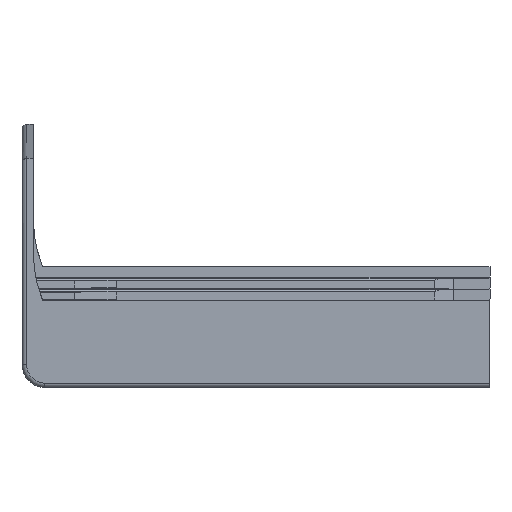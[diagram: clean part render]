
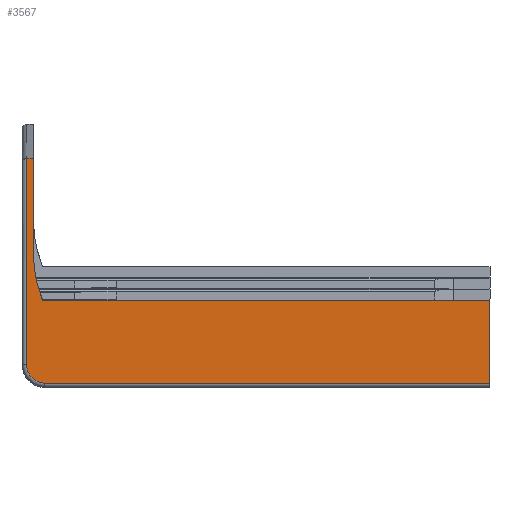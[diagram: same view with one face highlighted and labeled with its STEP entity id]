
A CAD part, left-side view. The second image highlights one B-rep face of the part: STEP entity #3567.
In plain terms, the highlighted planar face has unit normal (-0.999, 0, -0.035) as drawn and (-1, 0, 0) by its records, which use the part's own axes.
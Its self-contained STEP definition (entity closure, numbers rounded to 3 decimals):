
#364 = VERTEX_POINT ( 'NONE', #5885 ) ;
#559 = VERTEX_POINT ( 'NONE', #3326 ) ;
#630 = CARTESIAN_POINT ( 'NONE',  ( -106., 1., 51. ) ) ;
#631 = DIRECTION ( 'NONE',  ( 0., -1., 0. ) ) ;
#1104 = CARTESIAN_POINT ( 'NONE',  ( -106., 1., 51. ) ) ;
#1175 = CIRCLE ( 'NONE', #3368, 4. ) ;
#1203 = ORIENTED_EDGE ( 'NONE', *, *, #5677, .T. ) ;
#1373 = AXIS2_PLACEMENT_3D ( 'NONE', #4789, #7784, #3820 ) ;
#1487 = DIRECTION ( 'NONE',  ( 0., -0.38, -0.925 ) ) ;
#1866 = CIRCLE ( 'NONE', #1373, 0.5 ) ;
#2107 = LINE ( 'NONE', #630, #2138 ) ;
#2138 = VECTOR ( 'NONE', #3476, 1000. ) ;
#2195 = CARTESIAN_POINT ( 'NONE',  ( -106., 50., -50. ) ) ;
#2201 = ORIENTED_EDGE ( 'NONE', *, *, #2982, .T. ) ;
#2260 = DIRECTION ( 'NONE',  ( 1., 0., 0. ) ) ;
#2268 = EDGE_LOOP ( 'NONE', ( #2201, #1203, #6806, #7379, #8407, #2696, #9436, #4502, #6452 ) ) ;
#2489 = LINE ( 'NONE', #1104, #4601 ) ;
#2696 = ORIENTED_EDGE ( 'NONE', *, *, #2821, .F. ) ;
#2821 = EDGE_CURVE ( 'NONE', #4251, #7616, #8908, .T. ) ;
#2982 = EDGE_CURVE ( 'NONE', #4582, #559, #2489, .T. ) ;
#3010 = FACE_OUTER_BOUND ( 'NONE', #2268, .T. ) ;
#3116 = CARTESIAN_POINT ( 'NONE',  ( -106., 5., -50. ) ) ;
#3285 = LINE ( 'NONE', #7781, #6676 ) ;
#3326 = CARTESIAN_POINT ( 'NONE',  ( -106., 19., 51. ) ) ;
#3328 = VERTEX_POINT ( 'NONE', #3116 ) ;
#3368 = AXIS2_PLACEMENT_3D ( 'NONE', #9651, #2260, #631 ) ;
#3476 = DIRECTION ( 'NONE',  ( 0., 0., -1. ) ) ;
#3547 = EDGE_CURVE ( 'NONE', #6000, #5737, #3983, .T. ) ;
#3563 = CARTESIAN_POINT ( 'NONE',  ( -106., 1., 51. ) ) ;
#3567 = ADVANCED_FACE ( 'NONE', ( #3010 ), #6767, .T. ) ;
#3697 = VECTOR ( 'NONE', #7031, 1000. ) ;
#3820 = DIRECTION ( 'NONE',  ( 0., -1., 0. ) ) ;
#3918 = DIRECTION ( 'NONE',  ( 0., 0., -1. ) ) ;
#3942 = LINE ( 'NONE', #5551, #3697 ) ;
#3983 = CIRCLE ( 'NONE', #8676, 25.5 ) ;
#4018 = EDGE_CURVE ( 'NONE', #8619, #3328, #1175, .T. ) ;
#4251 = VERTEX_POINT ( 'NONE', #4505 ) ;
#4385 = CARTESIAN_POINT ( 'NONE',  ( -106., 0., -51. ) ) ;
#4502 = ORIENTED_EDGE ( 'NONE', *, *, #4018, .F. ) ;
#4505 = CARTESIAN_POINT ( 'NONE',  ( -106., 50., -50. ) ) ;
#4582 = VERTEX_POINT ( 'NONE', #3563 ) ;
#4586 = CARTESIAN_POINT ( 'NONE',  ( -106., 5., -50. ) ) ;
#4601 = VECTOR ( 'NONE', #4683, 1000. ) ;
#4683 = DIRECTION ( 'NONE',  ( 0., 1., 0. ) ) ;
#4789 = CARTESIAN_POINT ( 'NONE',  ( -106., 19.5, -46.125 ) ) ;
#4811 = EDGE_CURVE ( 'NONE', #7616, #5737, #3942, .T. ) ;
#4956 = VECTOR ( 'NONE', #8856, 1000. ) ;
#4983 = CARTESIAN_POINT ( 'NONE',  ( -106., 29., -48.5 ) ) ;
#5353 = EDGE_CURVE ( 'NONE', #4582, #8619, #2107, .T. ) ;
#5542 = AXIS2_PLACEMENT_3D ( 'NONE', #4385, #9616, #9028 ) ;
#5551 = CARTESIAN_POINT ( 'NONE',  ( -106., 50., -48.5 ) ) ;
#5677 = EDGE_CURVE ( 'NONE', #559, #364, #3285, .T. ) ;
#5737 = VERTEX_POINT ( 'NONE', #4983 ) ;
#5759 = EDGE_CURVE ( 'NONE', #3328, #4251, #6744, .T. ) ;
#5885 = CARTESIAN_POINT ( 'NONE',  ( -106., 19., -46.125 ) ) ;
#5888 = DIRECTION ( 'NONE',  ( 1., 0., 0. ) ) ;
#6000 = VERTEX_POINT ( 'NONE', #7080 ) ;
#6002 = DIRECTION ( 'NONE',  ( 0., 0., 1. ) ) ;
#6004 = VECTOR ( 'NONE', #6002, 1000. ) ;
#6452 = ORIENTED_EDGE ( 'NONE', *, *, #5353, .F. ) ;
#6676 = VECTOR ( 'NONE', #3918, 1000. ) ;
#6744 = LINE ( 'NONE', #4586, #4956 ) ;
#6767 = PLANE ( 'NONE',  #5542 ) ;
#6806 = ORIENTED_EDGE ( 'NONE', *, *, #7909, .T. ) ;
#7031 = DIRECTION ( 'NONE',  ( 0., -1., 0. ) ) ;
#7080 = CARTESIAN_POINT ( 'NONE',  ( -106., 19.31, -46.587 ) ) ;
#7379 = ORIENTED_EDGE ( 'NONE', *, *, #3547, .T. ) ;
#7514 = CARTESIAN_POINT ( 'NONE',  ( -106., 29., -23. ) ) ;
#7616 = VERTEX_POINT ( 'NONE', #9317 ) ;
#7781 = CARTESIAN_POINT ( 'NONE',  ( -106., 19., 51. ) ) ;
#7784 = DIRECTION ( 'NONE',  ( 1., 0., 0. ) ) ;
#7909 = EDGE_CURVE ( 'NONE', #364, #6000, #1866, .T. ) ;
#8407 = ORIENTED_EDGE ( 'NONE', *, *, #4811, .F. ) ;
#8451 = CARTESIAN_POINT ( 'NONE',  ( -106., 1., -46. ) ) ;
#8619 = VERTEX_POINT ( 'NONE', #8451 ) ;
#8676 = AXIS2_PLACEMENT_3D ( 'NONE', #7514, #5888, #1487 ) ;
#8856 = DIRECTION ( 'NONE',  ( 0., 1., 0. ) ) ;
#8908 = LINE ( 'NONE', #2195, #6004 ) ;
#9028 = DIRECTION ( 'NONE',  ( 0., 0., 1. ) ) ;
#9317 = CARTESIAN_POINT ( 'NONE',  ( -106., 50., -48.5 ) ) ;
#9436 = ORIENTED_EDGE ( 'NONE', *, *, #5759, .F. ) ;
#9616 = DIRECTION ( 'NONE',  ( -1., 0., 0. ) ) ;
#9651 = CARTESIAN_POINT ( 'NONE',  ( -106., 5., -46. ) ) ;
